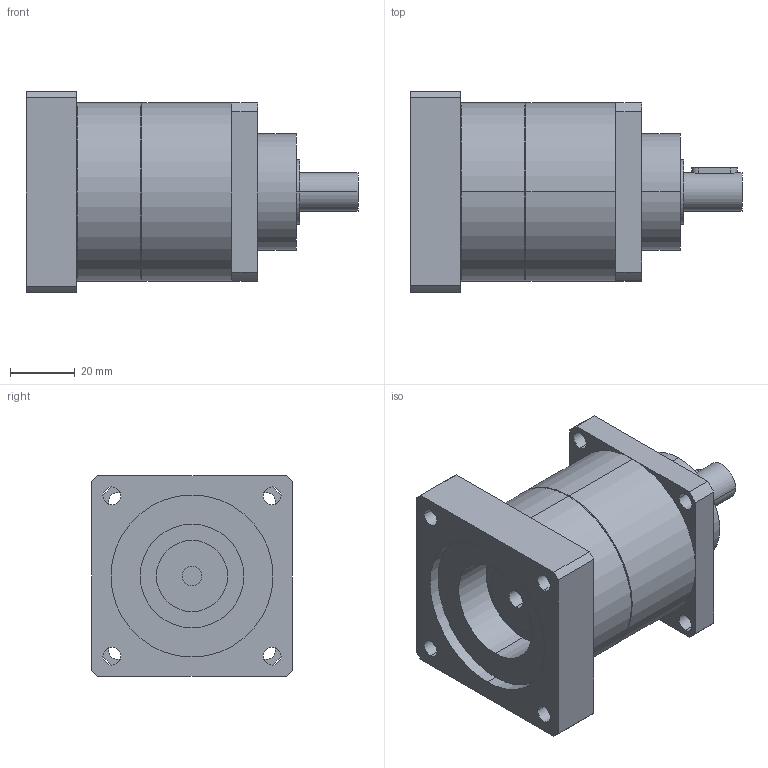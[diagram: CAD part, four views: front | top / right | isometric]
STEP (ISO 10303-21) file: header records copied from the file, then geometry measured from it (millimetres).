
FILE_DESCRIPTION(('CoCreate Modeling STEP Export'),'2;1');
FILE_NAME('GPT55_ig-3-4-5-7-10_12_B5A_6_P23.stp','2014-08-25T14:32:59',(''),(''),'CoCreate Modeling STEP processor for AP214 (Solid Model)','CoCreate Modeling 16.00C 25-Feb-2009 (C) Parametric Technology GmbH','');
FILE_SCHEMA(('AUTOMOTIVE_DESIGN { 1 0 10303 214 1 1 1 1 }'));
Length unit declared in the file: millimetre
Products named in the file (2): GPT55_ig-3-4-5-7-10_12_B5A_6_P23
Assembly tree (1 placements, depth 2):
  GPT55_ig-3-4-5-7-10_12_B5A_6_P23
    GPT55_ig-3-4-5-7-10_12_B5A_6_P23
Bounding box: 102.5 x 62 x 62 mm (x, y, z)
Volume: 193834 mm3; surface area: 28786.6 mm2
Topology: 1 solids, 1 shells, 77 faces, 204 edges, 139 vertices
Faces by surface type: cylinder 46, plane 27, cone 4
Entity records: 2515 total; most frequent: CARTESIAN_POINT 710, ORIENTED_EDGE 408, DIRECTION 318, EDGE_CURVE 204, VERTEX_POINT 139, AXIS2_PLACEMENT_3D 117, EDGE_LOOP 103, VECTOR 84
